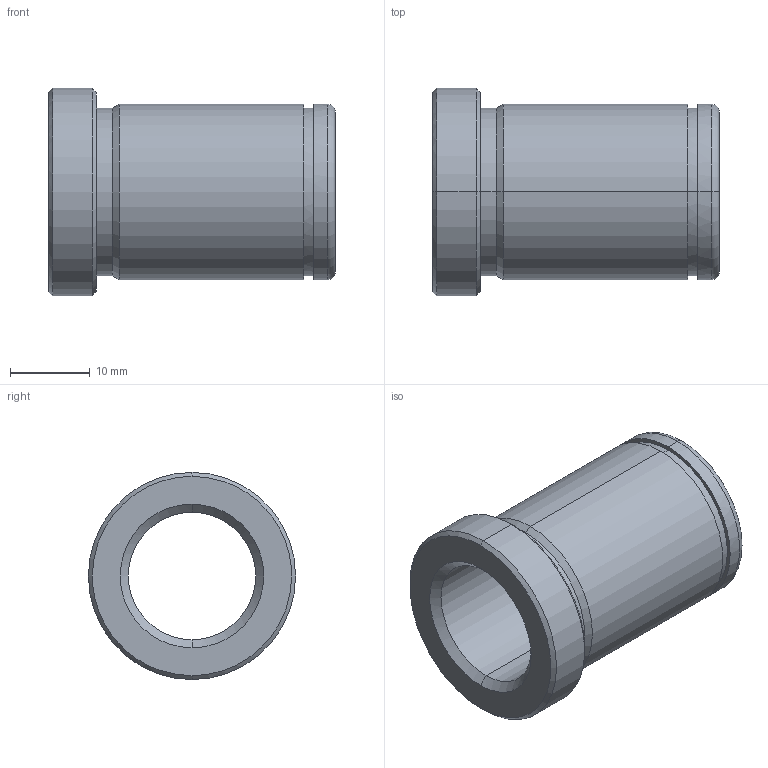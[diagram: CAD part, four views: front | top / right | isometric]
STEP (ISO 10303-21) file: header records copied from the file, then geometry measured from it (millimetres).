
FILE_DESCRIPTION(('CATIA V5 STEP Exchange'),'2;1');
FILE_NAME('C:\Users\Utente\Desktop\IO LAVORO\3D X SITO CF\X SITO\PLASTICA\553\553-16X36.stp','2021-05-21T18:57:55+00:00',('none'),('none'),'CATIA Version 5 Release 20 GA (IN-10)','CATIA V5 STEP AP203','none');
FILE_SCHEMA(('CONFIG_CONTROL_DESIGN'));
Length unit declared in the file: millimetre
Products named in the file (1): 553-16X36
Bounding box: 36 x 26 x 26 mm (x, y, z)
Volume: 7139 mm3; surface area: 4993.4 mm2
Topology: 1 solids, 1 shells, 29 faces, 92 edges, 68 vertices
Faces by surface type: cylinder 12, cone 8, plane 5, torus 4
Entity records: 1222 total; most frequent: CARTESIAN_POINT 368, ORIENTED_EDGE 184, DIRECTION 136, EDGE_CURVE 92, AXIS2_PLACEMENT_3D 88, VERTEX_POINT 68, CIRCLE 58, EDGE_LOOP 34
